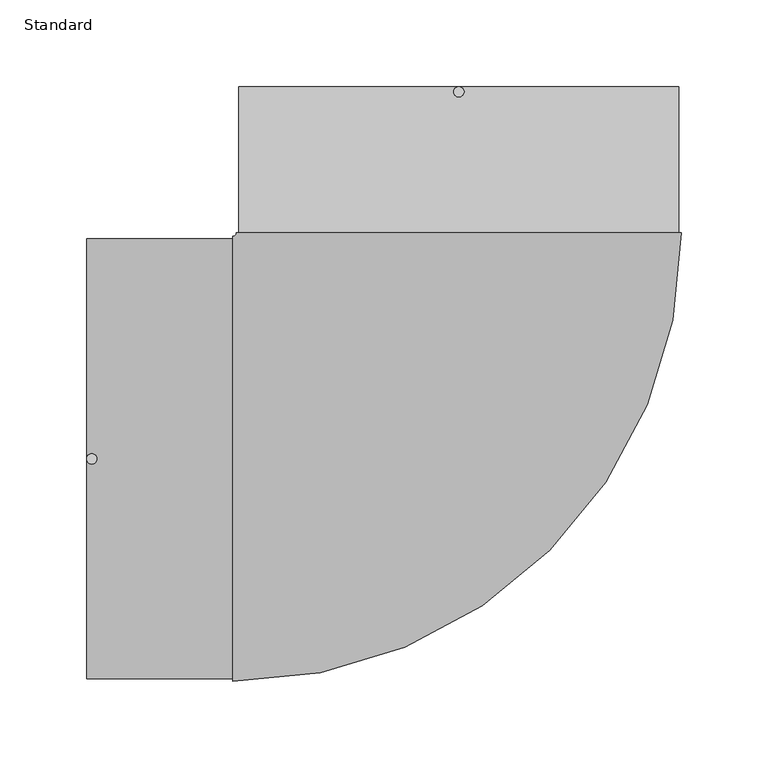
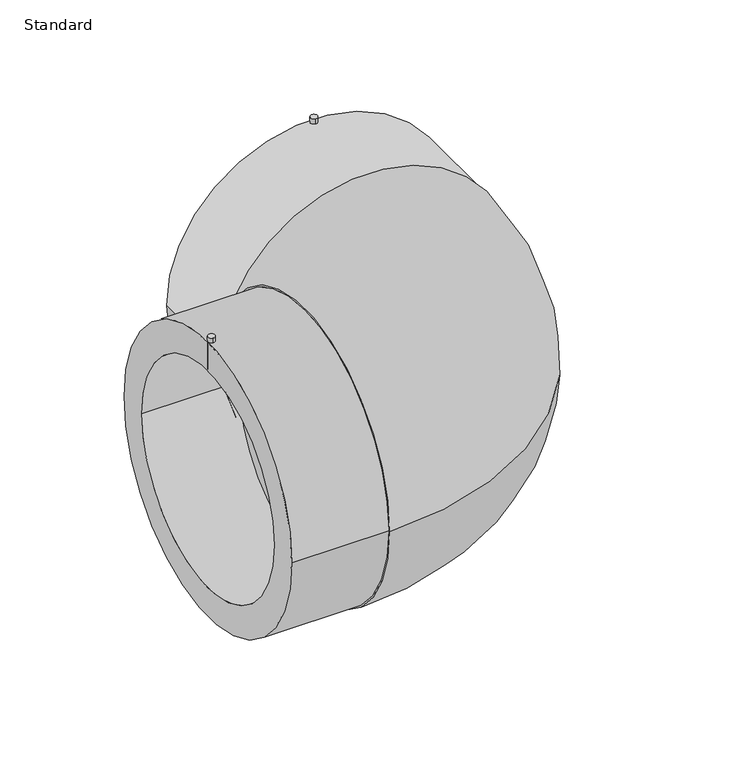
"""IFC4 building model written with IfcOpenShell, lengths in millimetres: pipe fitting geometry, EGB_VASEN_ PPR_Codo electrosoldable 90 WXRD200_Codo electrosoldable 45 WXRD220 : Standard."""

from ifc_helpers import new_model, si_unit, point, frame, frame_2d, origin, place, context, project, spatial, polyline, circle_curve, ellipse_curve, trimmed, segment, composite_curve, outline, extrude, source, transform, mapped, element, save
from ifc_brep_helpers import plane_surface, cylinder_surface, revolved_surface, advanced_brep


def standard_1c59631c(model_context):
    return source(origin(), model_context, "Body", "SolidModel", [
        advanced_brep(
        [(-215.0, -127.0, 0.0), (-215.0, 127.0, 0.0), (-215.0, -100.0, 0.0), (-215.0, 100.0, 0.0), (-130.5, -127.0, 0.0), (-130.5, 127.0, 0.0), (-130.5, -100.0, 0.0), (-130.5, 100.0, 0.0), (-130.5, -128.5, 0.0), (-130.5, 128.5, 0.0), (128.5, 130.5, 0.0), (-128.5, 130.5, 0.0), (127.0, 130.5, 0.0), (-127.0, 130.5, 0.0), (100.0, 130.5, 0.0), (-100.0, 130.5, 0.0), (127.0, 215.0, 0.0), (-127.0, 215.0, 0.0), (100.0, 215.0, 0.0), (-100.0, 215.0, 0.0)],
        [
            (0, 1, circle_curve(frame((-215.0, 0.0, 0.0), z_axis=(-1.0, 0.0, 0.0), x_axis=(0.0, 1.0, 0.0)), 127.0)),
            (1, 0, circle_curve(frame((-215.0, 0.0, 0.0), z_axis=(-1.0, 0.0, 0.0), x_axis=(0.0, 1.0, 0.0)), 127.0)),
            (2, 3, circle_curve(frame((-215.0, 0.0, 0.0), z_axis=(1.0, 0.0, 0.0), x_axis=(0.0, 1.0, 0.0)), 100.0)),
            (3, 2, circle_curve(frame((-215.0, 0.0, 0.0), z_axis=(1.0, 0.0, 0.0), x_axis=(0.0, 1.0, 0.0)), 100.0)),
            (0, 4),
            (4, 5, circle_curve(frame((-130.5, 0.0, 0.0), z_axis=(-1.0, 0.0, 0.0), x_axis=(0.0, 1.0, 0.0)), 127.0)),
            (5, 1),
            (5, 4, circle_curve(frame((-130.5, 0.0, 0.0), z_axis=(-1.0, 0.0, 0.0), x_axis=(0.0, 1.0, 0.0)), 127.0)),
            (2, 6),
            (6, 7, circle_curve(frame((-130.5, 0.0, 0.0), z_axis=(1.0, 0.0, 0.0), x_axis=(0.0, 1.0, 0.0)), 100.0)),
            (7, 3),
            (7, 6, circle_curve(frame((-130.5, 0.0, 0.0), z_axis=(1.0, 0.0, 0.0), x_axis=(0.0, 1.0, 0.0)), 100.0)),
            (8, 9, circle_curve(frame((-130.5, 0.0, 0.0), z_axis=(-1.0, 0.0, 0.0), x_axis=(0.0, 1.0, 0.0)), 128.5)),
            (9, 8, circle_curve(frame((-130.5, 0.0, 0.0), z_axis=(-1.0, 0.0, 0.0), x_axis=(0.0, 1.0, 0.0)), 128.5)),
            (10, 11, circle_curve(frame((0.0, 130.5, 0.0), z_axis=(0.0, 1.0, 0.0), x_axis=(-1.0, 0.0, 0.0)), 128.5)),
            (11, 10, circle_curve(frame((0.0, 130.5, 0.0), z_axis=(0.0, 1.0, 0.0), x_axis=(-1.0, 0.0, 0.0)), 128.5)),
            (12, 13, circle_curve(frame((0.0, 130.5, 0.0), z_axis=(0.0, -1.0, 0.0), x_axis=(-1.0, 0.0, 0.0)), 127.0)),
            (13, 12, circle_curve(frame((0.0, 130.5, 0.0), z_axis=(0.0, -1.0, 0.0), x_axis=(-1.0, 0.0, 0.0)), 127.0)),
            (14, 15, circle_curve(frame((0.0, 130.5, 0.0), z_axis=(0.0, 1.0, 0.0), x_axis=(-1.0, 0.0, 0.0)), 100.0)),
            (15, 14, circle_curve(frame((0.0, 130.5, 0.0), z_axis=(0.0, 1.0, 0.0), x_axis=(-1.0, 0.0, 0.0)), 100.0)),
            (8, 10, circle_curve(frame((-130.5, 130.5, 0.0), z_axis=(0.0, 0.0, 1.0), x_axis=(0.0, -1.0, 0.0)), 259.0)),
            (11, 9, circle_curve(frame((-130.5, 130.5, 0.0), z_axis=(0.0, 0.0, -1.0), x_axis=(0.0, -1.0, 0.0)), 2.0)),
            (16, 17, circle_curve(frame((0.0, 215.0, 0.0), z_axis=(0.0, 1.0, 0.0), x_axis=(-1.0, 0.0, 0.0)), 127.0)),
            (17, 16, circle_curve(frame((0.0, 215.0, 0.0), z_axis=(0.0, 1.0, 0.0), x_axis=(-1.0, 0.0, 0.0)), 127.0)),
            (18, 19, circle_curve(frame((0.0, 215.0, 0.0), z_axis=(0.0, -1.0, 0.0), x_axis=(-1.0, 0.0, 0.0)), 100.0)),
            (19, 18, circle_curve(frame((0.0, 215.0, 0.0), z_axis=(0.0, -1.0, 0.0), x_axis=(-1.0, 0.0, 0.0)), 100.0)),
            (17, 13),
            (12, 16),
            (19, 15),
            (14, 18),
        ],
        [
            plane_surface(frame((-215.0, 0.0, 0.0), z_axis=(-1.0, 0.0, 0.0), x_axis=(0.0, 0.0, 1.0))),
            cylinder_surface(frame((-215.0, 0.0, 0.0), z_axis=(-1.0, 0.0, 0.0), x_axis=(0.0, 1.0, 0.0)), 127.0),
            revolved_surface(polyline([(-130.5, 100.0, 0.0), (-215.0, 100.0, 0.0)]), (-215.0, 0.0, 0.0), (1.0, 0.0, 0.0)),
            plane_surface(frame((-130.5, 0.0, 0.0), z_axis=(-1.0, 0.0, 0.0), x_axis=(0.0, 0.0, 1.0))),
            plane_surface(frame((0.0, 130.5, 0.0), z_axis=(0.0, 1.0, 0.0), x_axis=(0.0, 0.0, 1.0))),
            revolved_surface(trimmed(ellipse_curve(frame((-130.5, 0.0, 0.0), z_axis=(-1.0, 0.0, 0.0), x_axis=(0.0, 1.0, 0.0)), 128.5, 128.5), [point((-130.5, -128.5, 0.0))], [point((-130.5, 128.5, 0.0))], True, "CARTESIAN"), (-130.5, 130.5, 0.0), (0.0, 0.0, 1.0)),
            revolved_surface(trimmed(ellipse_curve(frame((-130.5, 0.0, 0.0), z_axis=(-1.0, 0.0, 0.0), x_axis=(0.0, 1.0, 0.0)), 128.5, 128.5), [point((-130.5, 128.5, 0.0))], [point((-130.5, -128.5, 0.0))], True, "CARTESIAN"), (-130.5, 130.5, 0.0), (0.0, 0.0, 1.0)),
            plane_surface(frame((0.0, 215.0, 0.0), z_axis=(0.0, 1.0, 0.0), x_axis=(0.0, 0.0, 1.0))),
            cylinder_surface(frame((0.0, 130.5, 0.0), z_axis=(0.0, -1.0, 0.0), x_axis=(-1.0, 0.0, 0.0)), 127.0),
            revolved_surface(polyline([(-100.0, 215.0, 0.0), (-100.0, 130.5, 0.0)]), (0.0, 130.5, 0.0), (0.0, 1.0, 0.0)),
        ],
        [
            (0, [[1, 2], [3, 4]]),
            (1, [[-1, 5, 6, 7]]),
            (1, [[-2, -7, 8, -5]]),
            (2, [[-3, 9, 10, 11]]),
            (2, [[-4, -11, 12, -9]]),
            (3, [[-10, -12]]),
            (3, [[13, 14], [-6, -8]]),
            (4, [[15, 16], [17, 18]]),
            (4, [[19, 20]]),
            (5, [[-13, 21, -16, 22]]),
            (6, [[-14, -22, -15, -21]]),
            (7, [[23, 24], [25, 26]]),
            (8, [[-24, 27, -17, 28]]),
            (8, [[-23, -28, -18, -27]]),
            (9, [[-26, 29, -19, 30]]),
            (9, [[-25, -30, -20, -29]]),
        ],
    ),
        extrude(outline(composite_curve([segment(trimmed(circle_curve(frame_2d((0.0, 212.0)), 3.0), [point((0.0, 209.0))], [point((0.0, 215.0))], False, "CARTESIAN"), True, "CONTINUOUS"), segment(trimmed(circle_curve(frame_2d((0.0, 212.0)), 3.0), [point((0.0, 215.0))], [point((0.0, 209.0))], False, "CARTESIAN"), True, "CONTINUOUS")], self_intersect=False)), frame((0.0, 0.0, 101.0), z_axis=(0.0, 0.0, 1.0), x_axis=(1.0, 0.0, 0.0)), (0.0, 0.0, 1.0), 30.5),
        extrude(outline(composite_curve([segment(trimmed(circle_curve(frame_2d((-212.0, 0.0)), 3.0), [point((-212.0, -3.0))], [point((-212.0, 3.0))], False, "CARTESIAN"), True, "CONTINUOUS"), segment(trimmed(circle_curve(frame_2d((-212.0, 0.0)), 3.0), [point((-212.0, 3.0))], [point((-212.0, -3.0))], False, "CARTESIAN"), True, "CONTINUOUS")], self_intersect=False)), frame((0.0, 0.0, 101.0), z_axis=(0.0, 0.0, 1.0), x_axis=(1.0, 0.0, 0.0)), (0.0, 0.0, 1.0), 30.5),
    ])


if __name__ == "__main__":
    model = new_model("IFC4")
    model_context = context("Model", 3, world=origin())
    ifc_project = project(units=[si_unit("LENGTHUNIT", "METRE", prefix="MILLI")], contexts=[model_context])
    site = spatial("IfcSite", under=ifc_project)
    building = spatial("IfcBuilding", under=site)
    placement = place(None, origin())
    standard_shape = standard_1c59631c(model_context)
    element("IfcPipeFitting", 1, ObjectType="EGB_VASEN_ PPR_Codo electrosoldable 90 WXRD200_Codo electrosoldable 45 WXRD220 : Standard", at=placement, inside=building, context=model_context, shape_type="MappedRepresentation", body=[
        mapped(standard_shape, transform((0.0, 0.0, 0.0), x_axis=(1.0, 0.0, 0.0), y_axis=(0.0, 1.0, 0.0), z_axis=(0.0, 0.0, 1.0))),
    ])
    save(model, "model.ifc")
